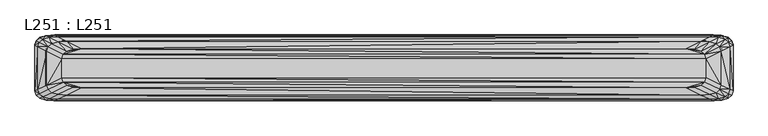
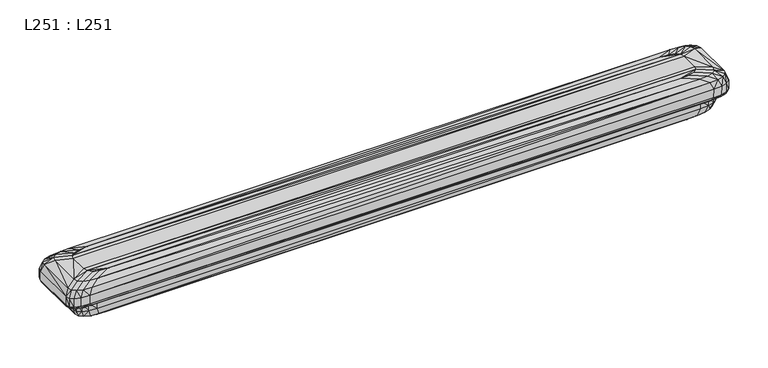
"""IFC4 building model written with IfcOpenShell, lengths in millimetres: light fixture geometry, L251 : L251."""

from ifc_helpers import new_model, si_unit, origin, place, context, project, spatial, faceted_brep, source, transform, mapped, element, save


def l251_l251_36c0e2c3(model_context):
    return source(origin(), model_context, "Body", "Brep", [
        faceted_brep([(598.4514049, 40.1224535, 1357.0101001), (591.8508295, 45.455175, 1354.854755), (596.2952547, 47.6428215, 1357.0950324), (599.9356659, 40.8163556, 1360.7102757), (589.8280554, 53.0161537, 1357.1554911), (594.0069796, 37.9290891, 1354.7699455), (598.454639, -37.2413887, 1356.8749773), (594.0102591, -34.9979042, 1354.6848549), (597.7795157, 48.3424269, 1360.7954417), (591.3137434, 53.715759, 1360.8559009), (585.38363, 50.8284926, 1354.9155701), (584.4462399, 41.7680514, 1354.0748551), (599.9528495, 40.6314411, 1377.0754305), (597.7966994, 48.1575124, 1377.1605965), (599.9560685, -38.2056475, 1376.923864), (599.9388849, -38.020733, 1360.5587092), (580.5354947, 56.9363375, 1360.8920086), (579.0498066, 56.2424355, 1357.1918325), (574.6053813, 54.0547743, 1354.9519116), (586.600963, 34.2476834, 1353.9899223), (586.6043182, -31.3016862, 1353.9878742), (596.2997618, -44.7617688, 1356.7903399), (591.8539549, -42.5239876, 1354.5999833), (584.449441, -38.8220663, 1353.9032368), (591.330927, 53.5308446, 1377.2210557), (580.5526783, 56.7571263, 1377.2573971), (577.9790405, 47.1413836, 1354.1353137), (567.2007918, 50.3676653, 1354.1716552), (552.1114938, 51.4411933, 1354.1836457), (592.6835292, 45.45262, 1389.9151714), (594.8382523, 37.9322374, 1389.830595), (597.8011914, -45.726013, 1376.8388701), (594.8415237, -35.7941811, 1389.7363162), (592.6866466, -43.3145466, 1389.6513224), (597.7840077, -45.5468018, 1360.4734816), (565.4633802, 57.8306543, 1377.2693876), (565.4461966, 58.0155688, 1360.9042329), (563.9605085, 57.3159489, 1357.2041795), (559.5160833, 55.1283023, 1354.9639021), (-552.1251162, 51.44119, 1354.1837279), (-586.6149379, 34.2476766, 1353.9900887), (-586.6115827, -31.301693, 1353.9880406), (552.1144965, -48.4951996, 1353.794235), (591.3166982, -50.9201264, 1360.412838), (589.8324523, -50.1407967, 1356.7294625), (585.3880724, -47.8973123, 1354.5393401), (577.9821315, -44.1953909, 1353.8425931), (586.2163299, 50.8316555, 1389.9758637), (560.348783, 55.1257473, 1390.0243185), (575.438081, 54.0522193, 1390.0123279), (577.3089441, 37.6980255, 1397.4991067), (579.4636672, 30.1719542, 1397.4139403), (591.3338818, -51.1050409, 1376.7779928), (577.3107916, -35.7314565, 1397.4080671), (586.220764, -48.6878858, 1389.5910356), (579.4670958, -28.2110764, 1397.492705), (-565.4471462, 58.0155625, 1360.9043861), (-565.4299626, 57.8306481, 1377.2695409), (-560.2885673, 55.1257567, 1390.0240891), (-563.9703408, 57.3159591, 1357.203929), (-559.5287128, 55.1283038, 1354.9638658), (-577.9927511, 47.1413813, 1354.1353697), (-567.2144363, 50.367665, 1354.1716628), (-584.4600606, 41.7680567, 1354.0747261), (-594.0185345, 37.9290871, 1354.7699928), (567.2038166, -47.4216746, 1353.8063001), (574.6097575, -51.123596, 1354.5030471), (559.5204374, -52.1971209, 1354.490982), (-559.5257857, -52.1971194, 1354.4909451), (-552.1221134, -48.4952029, 1353.7943172), (-584.4568596, -38.822061, 1353.9031078), (-594.0152549, -34.9979062, 1354.6849023), (580.5398104, -54.1407069, 1360.3767791), (579.0541375, -53.3613626, 1356.6930467), (580.556994, -54.3256214, 1376.7419339), (570.8417447, 43.0713577, 1397.5595654), (544.9741979, 47.3711675, 1397.6078974), (560.063496, 46.2976395, 1397.5959068), (-544.898029, 47.3711655, 1397.607945), (551.6729441, 24.888055, 1399.911456), (553.8290941, 17.3619691, 1399.8266465), (551.6750534, -22.9767427, 1400.1091048), (545.2091709, -28.3500673, 1400.0484616), (570.8449091, -41.1047811, 1397.3474239), (553.8313576, -15.4563626, 1400.1937426), (575.4424492, -51.9141549, 1389.5543862), (-580.5364664, 56.9363343, 1360.8920873), (-580.5192827, 56.7514198, 1377.2572421), (-575.3778874, 54.0522318, 1390.012024), (-579.0596609, 56.2424342, 1357.1918639), (-559.9873491, 46.2976406, 1397.5958799), (-574.6180329, 54.0490756, 1354.9515669), (-585.3963477, 50.8284951, 1354.9155076), (-591.8636573, 45.4551705, 1354.8548639), (-598.4587355, 40.1224457, 1357.0102903), (563.9648174, -54.4348875, 1356.6809816), (-563.964605, -54.4405952, 1356.6808544), (-574.6150837, -51.1235914, 1354.5029357), (-567.2114115, -47.4216749, 1353.8063077), (-577.9896602, -44.1953932, 1353.8426491), (-585.3933324, -47.8973097, 1354.5392771), (-591.8591049, -42.5239921, 1354.6000927), (-598.4555013, -37.2413819, 1356.874811), (565.4676739, -55.4048496, 1376.7296351), (565.4504903, -55.2199351, 1360.3644803), (545.2057446, 30.2613726, 1399.9722712), (534.4274959, 33.481951, 1400.0083789), (519.3381978, 34.5611823, 1400.0206031), (-519.2554938, 34.5611712, 1400.0208759), (-534.344814, 33.4819429, 1400.008577), (-551.5904382, 24.8880525, 1399.9115176), (-553.7453155, 17.3619691, 1399.8266465), (-553.743052, -15.4563626, 1400.1937426), (534.430856, -31.576351, 1400.0121686), (560.0665942, -44.3310648, 1397.3111309), (519.3415359, -32.649876, 1400.0001034), (-551.5883289, -22.9767452, 1400.1091663), (560.3531291, -52.9876799, 1389.542321), (544.9772741, -45.4045898, 1397.2990657), (-591.2975976, 53.5308394, 1377.2211828), (-586.1562023, 50.825948, 1389.975731), (-589.8365488, 53.0161504, 1357.1555714), (-591.3133542, 53.7157538, 1360.8560285), (-570.764237, 43.0713568, 1397.5595873), (-545.1231287, 30.2613771, 1399.9721612), (-596.3038583, 47.6428258, 1357.0949277), (-599.935541, 40.8163458, 1360.7105137), (-565.4428526, -55.2199414, 1360.3646336), (-579.0553301, -53.3613639, 1356.6930781), (-589.8321519, -50.1408, 1356.7295428), (-596.2993513, -44.7617645, 1356.7902352), (-599.9323219, -38.0207282, 1360.5585907), (-565.425669, -55.4048559, 1376.7297884), (-577.2315465, 37.6980322, 1397.4989436), (-579.3864237, 30.1719488, 1397.4140726), (-579.3844222, -28.2110818, 1397.4928368), (-519.2535827, -32.6498725, 1400.0000192), (-577.2282721, -35.7314644, 1397.4082609), (-570.7610726, -41.104782, 1397.3474458), (-545.1211294, -28.3500628, 1400.0483512), (-544.8935258, -45.4045917, 1397.2991138), (-560.2842213, -52.9876851, 1389.5424481), (-597.7634801, 48.1575147, 1377.1605396), (-592.6220847, 45.4526234, 1389.9150878), (-597.7806637, 48.3424292, 1360.7953848), (-599.9183573, 40.6314313, 1377.0756685), (-599.9151383, -38.2056426, 1376.9237455), (-580.5321506, -54.1407101, 1360.3768578), (-580.514967, -54.3256246, 1376.7420126), (-591.3103994, -50.9201317, 1360.4129656), (-597.7761718, -45.5468141, 1360.4737812), (-575.3735193, -51.9141571, 1389.5544387), (-594.778389, 37.9322433, 1389.8304499), (-594.7751176, -35.7941751, 1389.7361711), (-592.6189675, -43.3145578, 1389.6515952), (-534.3428807, -31.5763445, 1400.0120097), (-559.9828239, -44.3310637, 1397.3111044), (-586.151768, -48.6878753, 1389.5907801), (-597.7604153, -45.7317285, 1376.8389355), (-591.2932157, -51.1050461, 1376.7781204)], [[[0, 1, 2]], [[2, 3, 0]], [[1, 4, 2]], [[1, 0, 5]], [[3, 6, 0]], [[7, 0, 6]], [[0, 7, 5]], [[3, 2, 8]], [[2, 9, 8]], [[4, 9, 2]], [[10, 4, 1]], [[11, 10, 1]], [[5, 11, 1]], [[12, 3, 8, 13]], [[14, 15, 3, 12]], [[6, 3, 15]], [[4, 16, 9]], [[17, 16, 4]], [[18, 17, 4, 10]], [[11, 5, 19]], [[5, 20, 19]], [[20, 5, 7]], [[6, 15, 21]], [[22, 6, 21]], [[7, 6, 22]], [[23, 7, 22]], [[20, 7, 23]], [[13, 8, 9, 24]], [[24, 9, 25]], [[25, 9, 16]], [[26, 10, 11]], [[27, 18, 10, 26]], [[11, 28, 26]], [[11, 19, 28]], [[13, 29, 12]], [[30, 14, 12]], [[12, 29, 30]], [[24, 29, 13]], [[31, 15, 14]], [[14, 32, 33, 31]], [[14, 30, 32]], [[21, 15, 34]], [[15, 31, 34]], [[25, 16, 35]], [[35, 16, 36]], [[17, 36, 16]], [[18, 37, 17]], [[37, 36, 17]], [[28, 38, 18, 27]], [[38, 37, 18]], [[19, 39, 28]], [[19, 40, 39]], [[19, 20, 41, 40]], [[42, 20, 23]], [[20, 42, 41]], [[21, 43, 44]], [[44, 22, 21]], [[43, 21, 34]], [[22, 44, 45]], [[45, 23, 22]], [[23, 45, 46]], [[42, 23, 46]], [[25, 47, 24]], [[29, 24, 47]], [[35, 48, 49, 25]], [[47, 25, 49]], [[28, 27, 26]], [[28, 39, 38]], [[29, 50, 30]], [[47, 50, 29]], [[51, 32, 30]], [[30, 50, 51]], [[52, 34, 31]], [[31, 33, 52]], [[32, 53, 33]], [[52, 33, 54]], [[33, 53, 54]], [[32, 51, 55]], [[53, 32, 55]], [[34, 52, 43]], [[35, 36, 56, 57]], [[58, 35, 57]], [[35, 58, 48]], [[37, 56, 36]], [[56, 37, 59]], [[38, 59, 37]], [[38, 39, 60]], [[59, 38, 60]], [[61, 62, 39]], [[62, 60, 39]], [[63, 61, 39]], [[40, 63, 39]], [[40, 41, 64]], [[64, 63, 40]], [[65, 42, 46]], [[65, 66, 67, 42]], [[68, 42, 67]], [[69, 42, 68]], [[42, 69, 41]], [[69, 70, 41]], [[70, 71, 41]], [[64, 41, 71]], [[72, 44, 43]], [[44, 72, 73]], [[73, 45, 44]], [[74, 72, 43, 52]], [[45, 73, 66]], [[46, 45, 66, 65]], [[49, 75, 47]], [[50, 47, 75]], [[48, 76, 77, 49]], [[75, 49, 77]], [[48, 78, 76]], [[78, 48, 58]], [[50, 79, 51]], [[75, 79, 50]], [[80, 55, 51]], [[51, 79, 80]], [[52, 54, 74]], [[53, 81, 82, 83]], [[54, 53, 83]], [[55, 84, 81, 53]], [[74, 54, 85]], [[54, 83, 85]], [[55, 80, 84]], [[57, 56, 86, 87]], [[57, 88, 58]], [[87, 88, 57]], [[89, 56, 59]], [[56, 89, 86]], [[88, 90, 78, 58]], [[91, 59, 60]], [[59, 91, 89]], [[60, 62, 91]], [[61, 91, 62]], [[92, 61, 63, 93]], [[91, 61, 92]], [[93, 63, 64]], [[64, 71, 94]], [[94, 93, 64]], [[66, 73, 95, 67]], [[96, 67, 95]], [[68, 67, 96]], [[96, 97, 68]], [[97, 98, 69, 68]], [[99, 69, 98]], [[69, 99, 70]], [[100, 70, 99]], [[101, 70, 100]], [[71, 70, 101]], [[101, 102, 71]], [[94, 71, 102]], [[103, 104, 72, 74]], [[104, 73, 72]], [[73, 104, 95]], [[74, 85, 103]], [[79, 75, 105]], [[77, 105, 75]], [[76, 106, 77]], [[105, 77, 106]], [[106, 76, 107]], [[76, 108, 107]], [[108, 76, 78]], [[90, 109, 78]], [[78, 109, 108]], [[110, 80, 79]], [[110, 79, 108]], [[108, 79, 107]], [[79, 105, 107]], [[111, 112, 84, 80]], [[110, 111, 80]], [[83, 82, 113, 114]], [[81, 115, 82]], [[85, 83, 114]], [[115, 113, 82]], [[116, 115, 81]], [[112, 116, 81]], [[112, 81, 84]], [[103, 85, 117]], [[85, 114, 118, 117]], [[87, 86, 119]], [[87, 120, 88]], [[119, 120, 87]], [[121, 86, 89]], [[86, 121, 122]], [[119, 86, 122]], [[88, 123, 90]], [[120, 123, 88]], [[92, 89, 91]], [[89, 92, 121]], [[90, 124, 109]], [[123, 124, 90]], [[121, 92, 93, 125]], [[125, 93, 94]], [[94, 102, 126]], [[126, 125, 94]], [[96, 95, 127]], [[127, 95, 104]], [[128, 97, 96]], [[127, 128, 96]], [[100, 99, 98, 97]], [[128, 100, 97]], [[129, 100, 128]], [[129, 101, 100]], [[130, 101, 129]], [[102, 101, 130]], [[126, 102, 131]], [[130, 131, 102]], [[132, 127, 104, 103]], [[117, 132, 103]], [[105, 106, 107]], [[124, 108, 109]], [[124, 110, 108]], [[133, 110, 124, 123]], [[134, 111, 110, 133]], [[135, 111, 134]], [[112, 111, 135]], [[114, 113, 115, 118]], [[115, 136, 118]], [[116, 136, 115]], [[135, 116, 112]], [[137, 116, 135]], [[138, 139, 116, 137]], [[136, 116, 139]], [[118, 140, 117]], [[132, 117, 141]], [[117, 140, 141]], [[118, 136, 140]], [[142, 143, 120, 119]], [[119, 122, 142]], [[120, 133, 123]], [[143, 133, 120]], [[122, 121, 125, 144]], [[142, 122, 144]], [[144, 125, 126]], [[145, 126, 131, 146]], [[142, 144, 126, 145]], [[147, 128, 127]], [[127, 132, 148, 147]], [[147, 129, 128]], [[149, 129, 147]], [[149, 130, 129]], [[150, 130, 149]], [[131, 130, 150]], [[150, 146, 131]], [[151, 132, 141]], [[132, 151, 148]], [[133, 152, 134]], [[152, 133, 143]], [[153, 134, 152]], [[135, 134, 153]], [[154, 137, 135, 153]], [[155, 136, 139]], [[140, 136, 155, 156]], [[157, 138, 137, 154]], [[156, 155, 139, 138]], [[151, 156, 138, 157]], [[141, 140, 156, 151]], [[145, 143, 142]], [[143, 145, 152]], [[146, 152, 145]], [[153, 152, 146]], [[146, 154, 153]], [[158, 154, 146]], [[146, 150, 158]], [[147, 148, 159, 149]], [[157, 148, 151]], [[148, 157, 159]], [[158, 149, 159]], [[149, 158, 150]], [[159, 157, 154, 158]]]),
        faceted_brep([(558.767294, 29.3753635, 1319.6705643), (574.1579895, 36.9584568, 1327.42723), (576.3141396, 29.4323855, 1327.342064), (560.9234442, 21.8492921, 1319.5853983), (533.1273509, 16.6206442, 1316.969659), (535.283501, 9.0945729, 1316.884493), (560.9256343, -18.1239719, 1319.872149), (579.2994372, 39.3699243, 1340.2396561), (581.4555873, 31.843853, 1340.1544901), (552.3015217, 34.7486956, 1319.7310235), (567.6922171, 42.331789, 1327.4876892), (535.2845261, -5.3139775, 1317.4592186), (576.3175997, -25.8785485, 1327.4556489), (572.8322378, 44.7432565, 1340.3001148), (-533.2161709, 16.6206456, 1316.9696257), (-526.7502884, 21.9939702, 1317.0302689), (-500.8826534, 26.2937789, 1317.078627), (526.6601515, 21.9939764, 1317.0301176), (-535.372475, 9.0945768, 1316.8843977), (533.1296489, -12.8343576, 1317.3745813), (558.7707571, -25.6500407, 1319.7869215), (579.31465, 39.2155821, 1354.0459835), (581.4575679, -28.5834544, 1340.2105531), (581.469373, 31.6894962, 1353.9611734), (572.8474506, 44.5889143, 1354.1064421), (541.523273, 37.9749774, 1319.7673649), (556.9139684, 45.5580707, 1327.5240306), (515.8819028, 25.2202582, 1317.0664591), (562.0539891, 47.9695382, 1340.3364562), (-535.3714501, -5.3139882, 1317.4594798), (574.1612954, -33.4046318, 1327.3707774), (562.0692018, 47.8151814, 1354.14314), (-561.0082132, 21.8492906, 1319.5854353), (-558.853336, 29.375374, 1319.6703064), (-552.3860265, 34.7486986, 1319.7309501), (-541.6077117, 37.9749678, 1319.7675996), (-515.9719735, 25.220254, 1317.0665619), (-526.5183916, 39.0484927, 1319.7796647), (500.7926047, 26.2937862, 1317.0784496), (552.3034475, -31.0233799, 1319.7266343), (526.6623393, -18.2076822, 1317.3139376), (-533.2152999, -12.8343562, 1317.3745475), (567.6954129, -38.7779565, 1327.3101342), (546.9799037, 48.8887094, 1354.1551306), (-546.9935786, 48.888707, 1354.155189), (579.3026906, -36.1038345, 1340.1259157), (579.3164764, -36.26388, 1353.9320089), (581.4727807, -28.7377966, 1354.0168804), (-579.3270961, 39.2155737, 1354.0461877), (-581.4834002, 31.6895049, 1353.9609597), (526.4339749, 39.0485054, 1319.7793554), (541.8246703, 46.6315987, 1327.5360212), (546.9646909, 49.0430517, 1340.3488032), (-561.0060232, -18.1239734, 1319.872186), (572.8353811, -41.4828624, 1340.0650384), (-576.3826412, 29.4323807, 1327.3421806), (-574.227764, 36.9584641, 1327.4270516), (-567.7618815, 42.3317888, 1327.4876948), (-556.9835666, 45.5580725, 1327.5239878), (-541.8942465, 46.6315974, 1327.536053), (556.917098, -42.0042402, 1327.2738412), (541.5265598, -34.249649, 1319.6899853), (515.8840245, -21.433966, 1317.2776446), (500.7947044, -22.5074909, 1317.2655794), (-526.7481006, -18.2076884, 1317.3140888), (-552.3826736, -31.0233769, 1319.7265614), (-558.849873, -25.6500447, 1319.78702), (562.0584934, -44.7034283, 1340.028623), (-547.0087914, 49.0430493, 1340.3488617), (-562.0828987, 47.8151821, 1354.1431239), (-572.8612135, 44.588913, 1354.1064744), (-562.0981115, 47.9695243, 1340.3367965), (572.8505939, -41.6372046, 1353.8713657), (546.982959, -45.9370133, 1353.8230075), (-581.4799927, -28.7378025, 1354.0170231), (-579.3423088, 39.3699306, 1340.2395039), (-572.8749993, 44.7432552, 1340.3001475), (-581.4952054, -28.5834456, 1340.2103393), (-581.497186, 31.8438471, 1340.1546328), (-576.3806082, -25.8842565, 1327.4555313), (562.0722791, -44.8577851, 1353.8353064), (546.9691733, -45.7769532, 1340.0165579), (541.8277779, -43.0777652, 1327.261776), (526.4372397, -35.323174, 1319.6779201), (-526.5151267, -35.323172, 1319.6778729), (-500.8805537, -22.5074836, 1317.2654004), (-567.7572587, -38.7779567, 1327.3101403), (-515.9698518, -21.4339702, 1317.2777474), (-541.6044249, -34.2496586, 1319.69022), (-574.2244582, -33.4046391, 1327.3709554), (-556.980437, -42.0042385, 1327.2737984), (-546.9905234, -45.9370157, 1353.823066), (-547.0043091, -45.7769556, 1340.0166164), (-579.3252695, -36.2638738, 1353.9318567), (-579.3390553, -36.1038283, 1340.1257635), (-541.8911389, -43.0777665, 1327.2618078), (-572.871856, -41.4828638, 1340.0650711), (-562.0936071, -44.7034276, 1340.0286069), (-562.0798214, -44.8577844, 1353.8352902), (-572.8580702, -41.637206, 1353.871398)], [[[0, 1, 2, 3]], [[4, 0, 3, 5]], [[2, 6, 3]], [[1, 7, 8, 2]], [[9, 10, 1, 0]], [[4, 9, 0]], [[3, 11, 5]], [[6, 11, 3]], [[12, 6, 2]], [[8, 12, 2]], [[1, 13, 7]], [[10, 13, 1]], [[14, 4, 5]], [[14, 15, 4]], [[15, 16, 4]], [[17, 9, 4]], [[4, 16, 17]], [[18, 14, 5]], [[18, 5, 11]], [[19, 6, 20]], [[6, 12, 20]], [[11, 6, 19]], [[21, 8, 7]], [[22, 12, 8]], [[23, 22, 8]], [[23, 8, 21]], [[21, 7, 13, 24]], [[25, 26, 10, 9]], [[27, 25, 9, 17]], [[26, 28, 13, 10]], [[29, 11, 19]], [[29, 18, 11]], [[12, 22, 30]], [[20, 12, 30]], [[24, 13, 31]], [[31, 13, 28]], [[14, 32, 33]], [[34, 14, 33]], [[18, 32, 14]], [[14, 34, 15]], [[35, 15, 34]], [[15, 35, 36]], [[15, 36, 16]], [[36, 35, 37, 16]], [[37, 38, 16]], [[16, 38, 17]], [[38, 27, 17]], [[29, 32, 18]], [[39, 19, 20]], [[19, 39, 40]], [[40, 41, 19]], [[41, 29, 19]], [[42, 20, 30]], [[20, 42, 39]], [[21, 24, 43]], [[21, 43, 44]], [[23, 21, 44]], [[30, 22, 45]], [[22, 46, 45]], [[46, 22, 47]], [[22, 23, 47]], [[23, 44, 48]], [[48, 49, 23]], [[49, 47, 23]], [[24, 31, 43]], [[50, 51, 26, 25]], [[38, 50, 25, 27]], [[26, 52, 28]], [[51, 52, 26]], [[31, 28, 43]], [[43, 28, 52]], [[41, 53, 29]], [[32, 29, 53]], [[30, 54, 42]], [[54, 30, 45]], [[32, 55, 56, 33]], [[57, 33, 56]], [[33, 57, 34]], [[53, 55, 32]], [[58, 34, 57]], [[34, 58, 35]], [[35, 58, 59, 37]], [[59, 50, 37]], [[50, 38, 37]], [[60, 39, 42]], [[39, 60, 61]], [[61, 40, 39]], [[40, 61, 62]], [[63, 41, 40]], [[62, 63, 40]], [[64, 65, 66, 41]], [[53, 41, 66]], [[63, 64, 41]], [[42, 67, 60]], [[67, 42, 54]], [[44, 43, 52, 68]], [[44, 69, 70]], [[44, 68, 71, 69]], [[44, 70, 48]], [[45, 72, 54]], [[72, 45, 46]], [[73, 72, 46]], [[74, 73, 46]], [[74, 46, 47]], [[49, 74, 47]], [[48, 75, 49]], [[48, 76, 75]], [[70, 76, 48]], [[77, 49, 78]], [[49, 75, 78]], [[74, 49, 77]], [[51, 50, 59]], [[52, 51, 68]], [[68, 51, 59]], [[66, 79, 53]], [[55, 53, 79]], [[54, 80, 67]], [[80, 54, 72]], [[55, 78, 75, 56]], [[56, 76, 57]], [[76, 56, 75]], [[79, 78, 55]], [[57, 71, 58]], [[71, 57, 76]], [[58, 71, 68, 59]], [[60, 67, 81, 82]], [[61, 60, 82, 83]], [[62, 61, 83, 63]], [[84, 63, 83]], [[63, 84, 85]], [[64, 63, 85]], [[65, 86, 66]], [[87, 88, 65, 64]], [[87, 64, 85]], [[66, 86, 89]], [[79, 66, 89]], [[65, 90, 86]], [[88, 90, 65]], [[67, 73, 81]], [[73, 67, 80]], [[69, 71, 70]], [[70, 71, 76]], [[73, 80, 72]], [[73, 91, 92, 81]], [[93, 91, 73]], [[74, 93, 73]], [[74, 94, 93]], [[94, 74, 77]], [[78, 79, 77]], [[89, 94, 77, 79]], [[81, 95, 82]], [[95, 83, 82]], [[92, 95, 81]], [[83, 95, 84]], [[85, 84, 88, 87]], [[84, 95, 88]], [[86, 96, 89]], [[86, 97, 96]], [[90, 97, 86]], [[88, 95, 90]], [[89, 96, 94]], [[95, 92, 97, 90]], [[98, 92, 91]], [[92, 98, 97]], [[99, 98, 91]], [[93, 99, 91]], [[96, 93, 94]], [[93, 96, 99]], [[97, 99, 96]], [[99, 97, 98]]]),
    ])


if __name__ == "__main__":
    model = new_model("IFC4")
    model_context = context("Model", 3, world=origin())
    ifc_project = project(units=[si_unit("LENGTHUNIT", "METRE", prefix="MILLI")], contexts=[model_context])
    site = spatial("IfcSite", under=ifc_project)
    building = spatial("IfcBuilding", under=site)
    placement = place(None, origin())
    l251_l251_shape = l251_l251_36c0e2c3(model_context)
    element("IfcLightFixture", 1, ObjectType="L251 : L251", at=placement, inside=building, context=model_context, shape_type="MappedRepresentation", body=[
        mapped(l251_l251_shape, transform((0.0, 0.0, 0.0), x_axis=(1.0, 0.0, 0.0), y_axis=(0.0, 1.0, 0.0), z_axis=(0.0, 0.0, 1.0))),
    ])
    save(model, "model.ifc")
